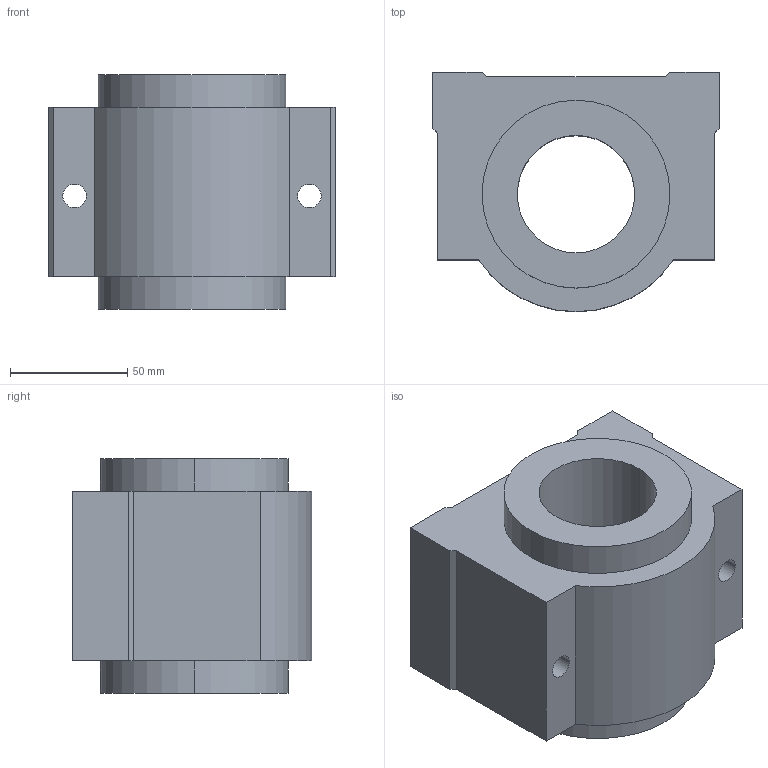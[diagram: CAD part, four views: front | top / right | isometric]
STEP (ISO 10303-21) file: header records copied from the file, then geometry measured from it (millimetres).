
FILE_DESCRIPTION((''),'2;1');
FILE_NAME('C:\Documents and Settings\ｿﾀﾀ蠑ｷ1\ｹﾙﾅﾁ ﾈｭｸ饅\ｺﾎﾇｰﾆﾄﾀﾏ\ﾁｦﾇｰ\SCE__VUU\SCE50VUU.stp','2005-06-22T15:08:59',('ｿﾀﾀ蠑ｷ1'),(''),'Autodesk Inventor 9','Autodesk Inventor 9','');
FILE_SCHEMA(('AUTOMOTIVE_DESIGN { 1 0 10303 214 1 1 1 1 }'));
Length unit declared in the file: millimetre
Products named in the file (1): SCE__VUU
Bounding box: 122 x 102 x 100 mm (x, y, z)
Volume: 701410.1 mm3; surface area: 75013.7 mm2
Topology: 1 solids, 1 shells, 28 faces, 72 edges, 48 vertices
Faces by surface type: plane 17, cylinder 7, bspline 4
Entity records: 945 total; most frequent: CARTESIAN_POINT 217, DIRECTION 144, ORIENTED_EDGE 144, EDGE_CURVE 72, VECTOR 50, LINE 50, VERTEX_POINT 48, AXIS2_PLACEMENT_3D 47
